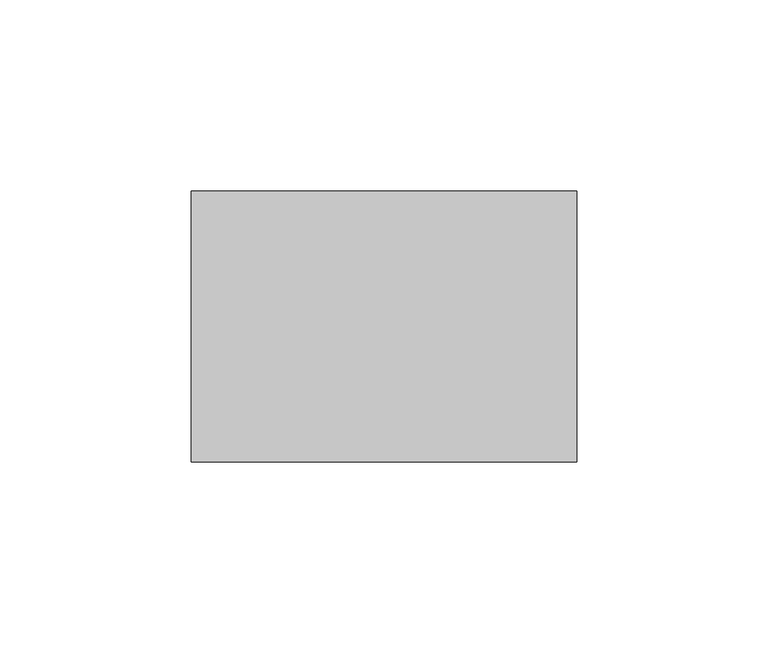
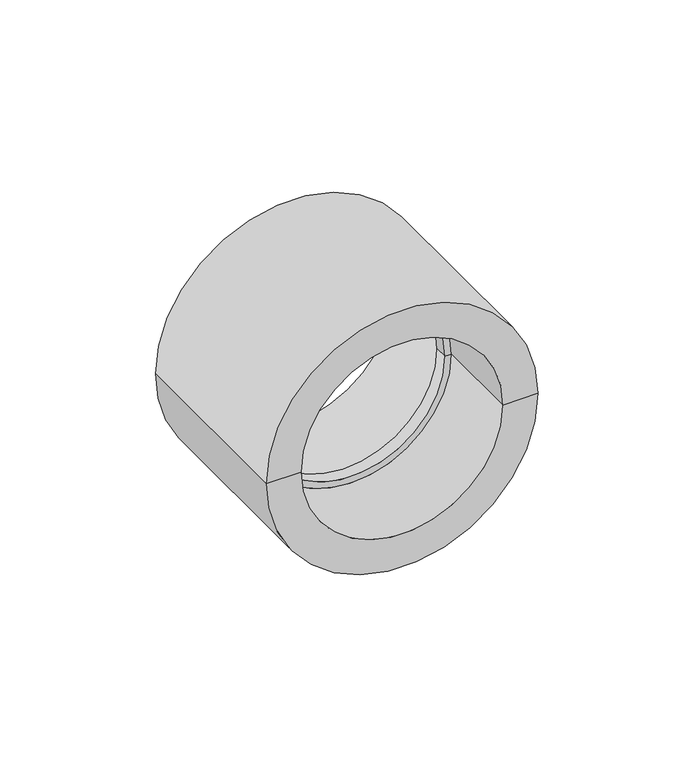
"""IFC4 building model written with IfcOpenShell, lengths in millimetres: pipe fitting geometry, NIRON RED termofusion manguito : Estándar."""

from ifc_helpers import new_model, si_unit, frame, origin, place, context, project, spatial, polyline, circle_curve, source, transform, mapped, element, save
from ifc_brep_helpers import plane_surface, cylinder_surface, revolved_surface, advanced_brep


def pipe_fitting_5c8083f9(model_context):
    return source(origin(), model_context, "Body", "AdvancedBrep", [
        advanced_brep(
        [(50.5, 71.0, 0.0), (-50.5, 71.0, 0.0), (-37.5, 71.0, 0.0), (37.5, 71.0, 0.0), (50.5, 0.0, 0.0), (-50.5, 0.0, 0.0), (37.5, 0.0, 0.0), (-37.5, 0.0, 0.0), (37.5, 33.0, 0.0), (-37.5, 33.0, 0.0), (35.0, 33.0, 0.0), (-35.0, 33.0, 0.0), (35.0, 38.0, 0.0), (-35.0, 38.0, 0.0), (37.5, 38.0, 0.0), (-37.5, 38.0, 0.0)],
        [
            (0, 1, circle_curve(frame((0.0, 71.0, 0.0), z_axis=(0.0, 1.0, 0.0), x_axis=(-1.0, 0.0, 0.0)), 50.5)),
            (1, 2),
            (2, 3, circle_curve(frame((0.0, 71.0, 0.0), z_axis=(0.0, -1.0, 0.0), x_axis=(-1.0, 0.0, 0.0)), 37.5)),
            (3, 0),
            (1, 0, circle_curve(frame((0.0, 71.0, 0.0), z_axis=(0.0, 1.0, 0.0), x_axis=(-1.0, 0.0, 0.0)), 50.5)),
            (3, 2, circle_curve(frame((0.0, 71.0, 0.0), z_axis=(0.0, -1.0, 0.0), x_axis=(-1.0, 0.0, 0.0)), 37.5)),
            (4, 5, circle_curve(frame((0.0, 0.0, 0.0), z_axis=(0.0, 1.0, 0.0), x_axis=(-1.0, 0.0, 0.0)), 50.5)),
            (5, 1),
            (0, 4),
            (5, 4, circle_curve(frame((0.0, 0.0, 0.0), z_axis=(0.0, 1.0, 0.0), x_axis=(-1.0, 0.0, 0.0)), 50.5)),
            (6, 7, circle_curve(frame((0.0, 0.0, 0.0), z_axis=(0.0, 1.0, 0.0), x_axis=(-1.0, 0.0, 0.0)), 37.5)),
            (7, 5),
            (4, 6),
            (7, 6, circle_curve(frame((0.0, 0.0, 0.0), z_axis=(0.0, 1.0, 0.0), x_axis=(-1.0, 0.0, 0.0)), 37.5)),
            (8, 9, circle_curve(frame((0.0, 33.0, 0.0), z_axis=(0.0, 1.0, 0.0), x_axis=(-1.0, 0.0, 0.0)), 37.5)),
            (9, 7),
            (6, 8),
            (9, 8, circle_curve(frame((0.0, 33.0, 0.0), z_axis=(0.0, 1.0, 0.0), x_axis=(-1.0, 0.0, 0.0)), 37.5)),
            (10, 11, circle_curve(frame((0.0, 33.0, 0.0), z_axis=(0.0, 1.0, 0.0), x_axis=(-1.0, 0.0, 0.0)), 35.0)),
            (11, 9),
            (8, 10),
            (11, 10, circle_curve(frame((0.0, 33.0, 0.0), z_axis=(0.0, 1.0, 0.0), x_axis=(-1.0, 0.0, 0.0)), 35.0)),
            (12, 13, circle_curve(frame((0.0, 38.0, 0.0), z_axis=(0.0, 1.0, 0.0), x_axis=(-1.0, 0.0, 0.0)), 35.0)),
            (13, 11),
            (10, 12),
            (13, 12, circle_curve(frame((0.0, 38.0, 0.0), z_axis=(0.0, 1.0, 0.0), x_axis=(-1.0, 0.0, 0.0)), 35.0)),
            (14, 15, circle_curve(frame((0.0, 38.0, 0.0), z_axis=(0.0, 1.0, 0.0), x_axis=(-1.0, 0.0, 0.0)), 37.5)),
            (15, 13),
            (12, 14),
            (15, 14, circle_curve(frame((0.0, 38.0, 0.0), z_axis=(0.0, 1.0, 0.0), x_axis=(-1.0, 0.0, 0.0)), 37.5)),
            (2, 15),
            (14, 3),
        ],
        [
            plane_surface(frame((0.0, 71.0, 0.0), z_axis=(0.0, 1.0, 0.0), x_axis=(-1.0, 0.0, 0.0))),
            cylinder_surface(frame((0.0, 96.0, 0.0), z_axis=(0.0, -1.0, 0.0), x_axis=(-1.0, 0.0, 0.0)), 50.5),
            plane_surface(frame((0.0, 0.0, 0.0), z_axis=(0.0, -1.0, 0.0), x_axis=(-1.0, 0.0, 0.0))),
            revolved_surface(polyline([(-37.5, 0.0, 0.0), (-37.5, 33.0, 0.0)]), (0.0, 96.0, 0.0), (0.0, -1.0, 0.0)),
            plane_surface(frame((0.0, 33.0, 0.0), z_axis=(0.0, -1.0, 0.0), x_axis=(-1.0, 0.0, 0.0))),
            revolved_surface(polyline([(-35.0, 33.0, 0.0), (-35.0, 38.0, 0.0)]), (0.0, 96.0, 0.0), (0.0, -1.0, 0.0)),
            plane_surface(frame((0.0, 38.0, 0.0), z_axis=(0.0, 1.0, 0.0), x_axis=(-1.0, 0.0, 0.0))),
            revolved_surface(polyline([(-37.5, 38.0, 0.0), (-37.5, 71.0, 0.0)]), (0.0, 96.0, 0.0), (0.0, -1.0, 0.0)),
        ],
        [
            (0, [[1, 2, 3, 4]]),
            (0, [[5, -4, 6, -2]]),
            (1, [[7, 8, -1, 9]]),
            (1, [[10, -9, -5, -8]]),
            (2, [[11, 12, -7, 13]]),
            (2, [[14, -13, -10, -12]]),
            (3, [[15, 16, -11, 17]]),
            (3, [[18, -17, -14, -16]]),
            (4, [[19, 20, -15, 21]]),
            (4, [[22, -21, -18, -20]]),
            (5, [[23, 24, -19, 25]]),
            (5, [[26, -25, -22, -24]]),
            (6, [[27, 28, -23, 29]]),
            (6, [[30, -29, -26, -28]]),
            (7, [[-3, 31, -27, 32]]),
            (7, [[-6, -32, -30, -31]]),
        ],
    ),
    ])


if __name__ == "__main__":
    model = new_model("IFC4")
    model_context = context("Model", 3, world=origin())
    ifc_project = project(units=[si_unit("LENGTHUNIT", "METRE", prefix="MILLI")], contexts=[model_context])
    site = spatial("IfcSite", under=ifc_project)
    building = spatial("IfcBuilding", under=site)
    placement = place(None, origin())
    pipe_fitting_shape = pipe_fitting_5c8083f9(model_context)
    element("IfcPipeFitting", 1, ObjectType="NIRON RED termofusion manguito : Estándar", at=placement, inside=building, context=model_context, shape_type="MappedRepresentation", body=[
        mapped(pipe_fitting_shape, transform((0.0, 0.0, 0.0), x_axis=(1.0, 0.0, 0.0), y_axis=(0.0, 1.0, 0.0), z_axis=(0.0, 0.0, 1.0))),
    ])
    save(model, "model.ifc")
